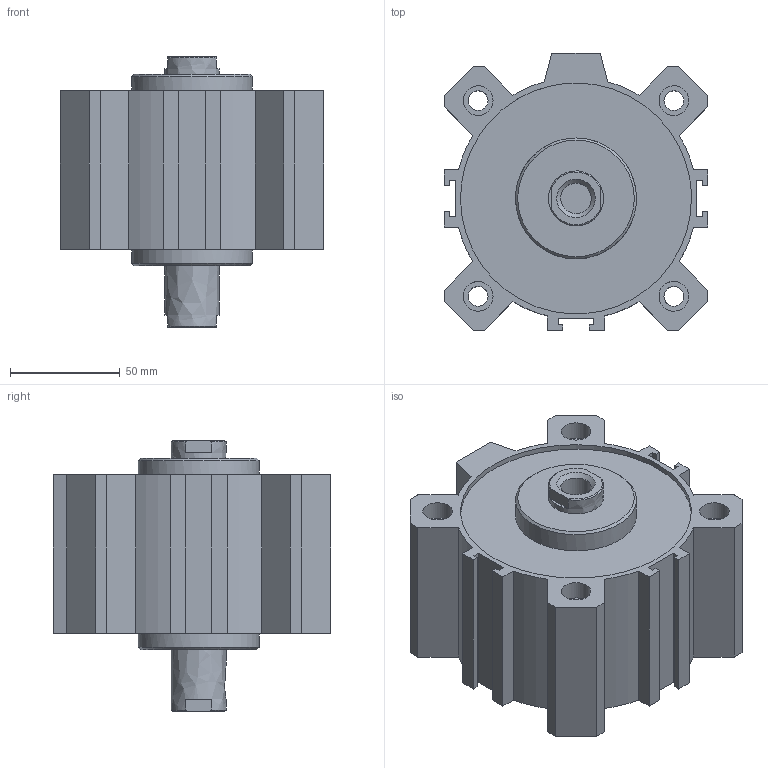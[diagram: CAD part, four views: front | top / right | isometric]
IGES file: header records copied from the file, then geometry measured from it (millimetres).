
Global section: file name: 1514_100_0020; native system: Autodesk Inventor 2014; preprocessor: unknown; author: A. Manieri; date: 20160824.163140; units: millimetre
Bounding box: 120 x 126 x 123 mm (x, y, z)
Volume: 711592.7 mm3; surface area: 143605.2 mm2
Topology: 2 solids, 2 shells, 132 faces, 346 edges, 238 vertices
Faces by surface type: bspline 132
